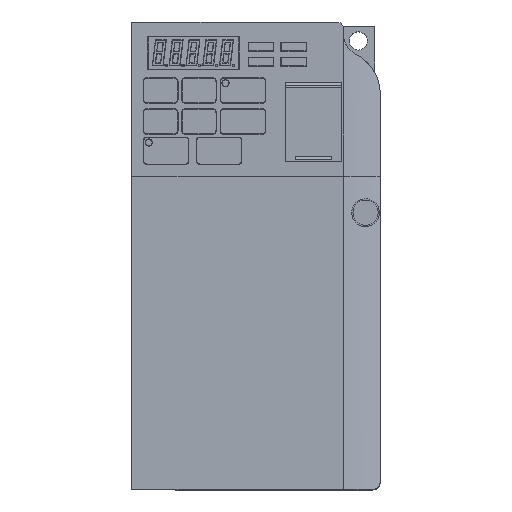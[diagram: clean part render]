
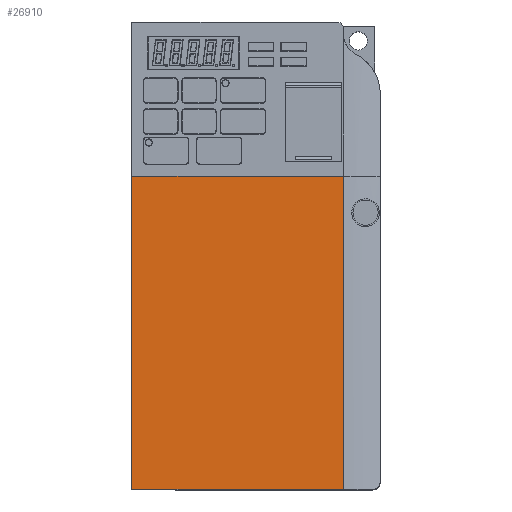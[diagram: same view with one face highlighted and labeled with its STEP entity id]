
A CAD part, top view. The second image highlights one B-rep face of the part: STEP entity #26910.
In plain terms, the highlighted planar face has unit normal (0, 0, 1).
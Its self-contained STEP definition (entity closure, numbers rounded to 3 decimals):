
#26410=DIRECTION('',(0.,-1.,0.));
#26411=VECTOR('',#26410,85.8);
#26412=CARTESIAN_POINT('',(-6.,10.,8.));
#26413=LINE('',#26412,#26411);
#26494=DIRECTION('',(-1.,0.,0.));
#26495=VECTOR('',#26494,58.);
#26496=CARTESIAN_POINT('',(-6.,-75.8,8.));
#26497=LINE('',#26496,#26495);
#26503=DIRECTION('',(0.,1.,0.));
#26504=VECTOR('',#26503,85.8);
#26505=CARTESIAN_POINT('',(-64.,-75.8,8.));
#26506=LINE('',#26505,#26504);
#26520=DIRECTION('',(1.,0.,0.));
#26521=VECTOR('',#26520,58.);
#26522=CARTESIAN_POINT('',(-64.,10.,8.));
#26523=LINE('',#26522,#26521);
#26694=CARTESIAN_POINT('',(-64.,10.,8.));
#26696=VERTEX_POINT('',#26694);
#26702=CARTESIAN_POINT('',(-64.,-75.8,8.));
#26703=VERTEX_POINT('',#26702);
#26704=CARTESIAN_POINT('',(-6.,-75.8,8.));
#26705=VERTEX_POINT('',#26704);
#26706=CARTESIAN_POINT('',(-6.,10.,8.));
#26707=VERTEX_POINT('',#26706);
#26899=CARTESIAN_POINT('',(-30.096,-32.779,8.));
#26900=DIRECTION('',(0.,0.,1.));
#26901=DIRECTION('',(1.,0.,0.));
#26902=AXIS2_PLACEMENT_3D('',#26899,#26900,#26901);
#26903=PLANE('',#26902);
#26904=ORIENTED_EDGE('',*,*,#26879,.T.);
#26905=ORIENTED_EDGE('',*,*,#26894,.T.);
#26906=ORIENTED_EDGE('',*,*,#26780,.T.);
#26907=ORIENTED_EDGE('',*,*,#26864,.T.);
#26908=EDGE_LOOP('',(#26904,#26905,#26906,#26907));
#26909=FACE_OUTER_BOUND('',#26908,.F.);
#26910=ADVANCED_FACE('',(#26909),#26903,.T.);
#26780=EDGE_CURVE('',#26707,#26705,#26413,.T.);
#26864=EDGE_CURVE('',#26705,#26703,#26497,.T.);
#26879=EDGE_CURVE('',#26703,#26696,#26506,.T.);
#26894=EDGE_CURVE('',#26696,#26707,#26523,.T.);
